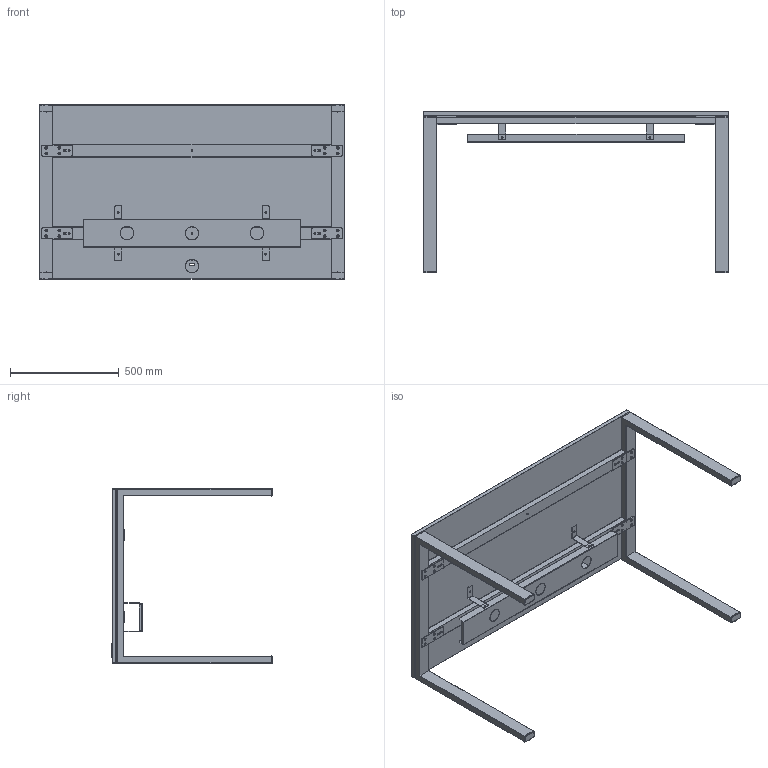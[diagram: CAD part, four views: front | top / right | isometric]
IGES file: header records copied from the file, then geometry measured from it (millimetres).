
Start section: SolidWorks IGES file using analytic representation for surfaces
Global section: file name: C:\Users\hcaixa\Documents\Gabinete Tecnico\72_produtos cliente\Timsteel\Mesas\Mesas Escritorio Operativas\Sistema Level Timsteel\AREIA-STUDIO FURNITURE CONCEPT\IGS\MESA 800X1400 H740.IGS; native system: SolidWorks 2014; preprocessor: SolidWorks 2014; author: hcaixa; date: 190710.121529; units: millimetre
Bounding box: 1400 x 741.1 x 805 mm (x, y, z)
Surface area: 4573781.3 mm2 (no closed solid volume)
Topology: 0 solids, 0 shells, 604 faces, 10352 edges, 10336 vertices
Faces by surface type: revolution 352, bspline 252
